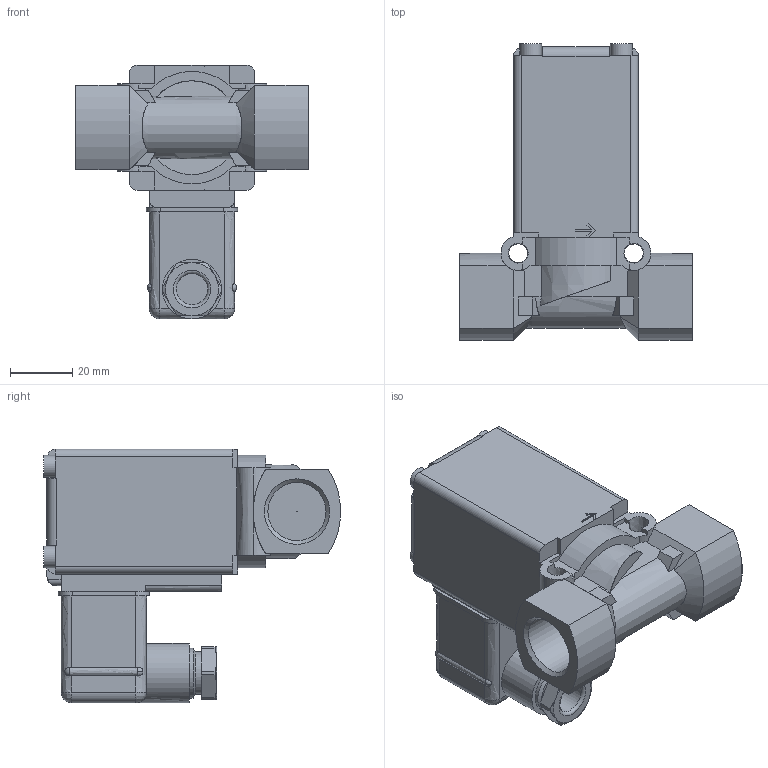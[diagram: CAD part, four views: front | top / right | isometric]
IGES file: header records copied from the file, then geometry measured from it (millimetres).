
Start section: Data from Parasolid IGES Translator 26.0.171, Copyright(c) 2006 Siemens PLM Software. All Rights Reserved.
Global section: file name: 0256-145794-2_2-way_Solenoid_Valve.igs; native system: By Siemens PLM Incorporated; preprocessor: XPlus GENERIC/IGES 26.0.171; author: Noname; organization: Noname; date: 20240805.161634; units: millimetre
Bounding box: 74.5 x 95.02 x 81.2 mm (x, y, z)
Surface area: 29883.3 mm2 (no closed solid volume)
Topology: 0 solids, 0 shells, 252 faces, 1360 edges, 1339 vertices
Faces by surface type: extrusion 157, revolution 95
